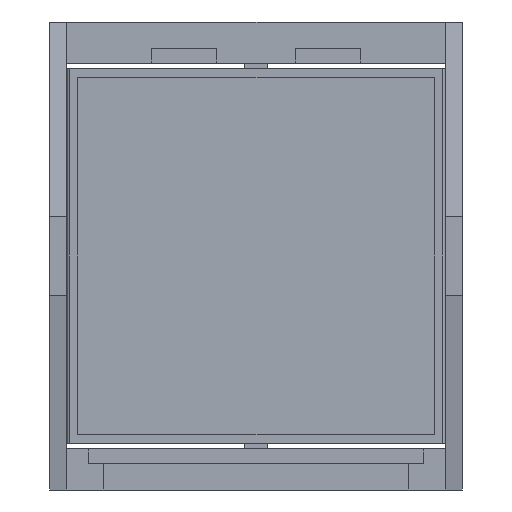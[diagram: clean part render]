
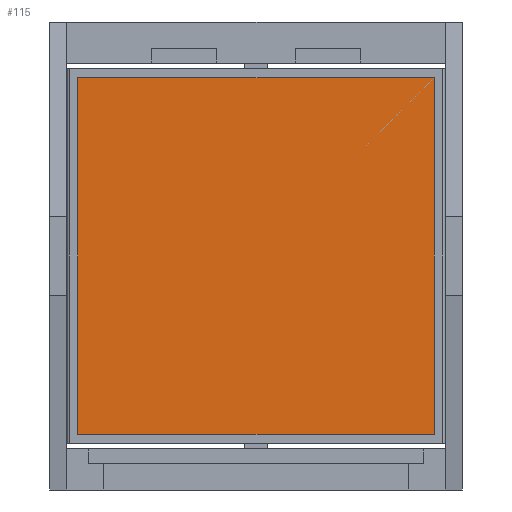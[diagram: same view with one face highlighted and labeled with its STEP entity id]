
A CAD part, front view. The second image highlights one B-rep face of the part: STEP entity #115.
In plain terms, the highlighted planar face has unit normal (0, -1, 0).
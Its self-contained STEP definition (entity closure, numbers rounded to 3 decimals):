
#24 = CARTESIAN_POINT ( 'NONE',  ( -14.587, -6.233, -10.305 ) ) ;
#115 = ADVANCED_FACE ( 'NONE', ( #3267 ), #7960, .T. ) ;
#397 = ORIENTED_EDGE ( 'NONE', *, *, #2728, .T. ) ;
#570 = DIRECTION ( 'NONE',  ( 1., 0., 0. ) ) ;
#1076 = AXIS2_PLACEMENT_3D ( 'NONE', #5154, #5234, #5781 ) ;
#1831 = LINE ( 'NONE', #5801, #8223 ) ;
#2063 = CARTESIAN_POINT ( 'NONE',  ( 14.413, -6.233, -10.305 ) ) ;
#2461 = EDGE_CURVE ( 'NONE', #2910, #7573, #8779, .T. ) ;
#2655 = DIRECTION ( 'NONE',  ( 0., 0., 1. ) ) ;
#2680 = LINE ( 'NONE', #5384, #5616 ) ;
#2687 = CARTESIAN_POINT ( 'NONE',  ( 14.413, -6.233, 18.695 ) ) ;
#2728 = EDGE_CURVE ( 'NONE', #7573, #4008, #1831, .T. ) ;
#2733 = VERTEX_POINT ( 'NONE', #7209 ) ;
#2910 = VERTEX_POINT ( 'NONE', #8379 ) ;
#2997 = CARTESIAN_POINT ( 'NONE',  ( -14.587, -6.233, 18.695 ) ) ;
#3267 = FACE_OUTER_BOUND ( 'NONE', #5490, .T. ) ;
#3784 = VECTOR ( 'NONE', #5339, 1000. ) ;
#4008 = VERTEX_POINT ( 'NONE', #2997 ) ;
#4184 = ORIENTED_EDGE ( 'NONE', *, *, #2461, .T. ) ;
#5154 = CARTESIAN_POINT ( 'NONE',  ( 14.413, -6.233, 18.695 ) ) ;
#5234 = DIRECTION ( 'NONE',  ( 0., -1., 0. ) ) ;
#5339 = DIRECTION ( 'NONE',  ( 0., 0., -1. ) ) ;
#5384 = CARTESIAN_POINT ( 'NONE',  ( 14.413, -6.233, -10.305 ) ) ;
#5465 = LINE ( 'NONE', #24, #3784 ) ;
#5481 = VECTOR ( 'NONE', #2655, 1000. ) ;
#5490 = EDGE_LOOP ( 'NONE', ( #4184, #397, #8198, #7281 ) ) ;
#5616 = VECTOR ( 'NONE', #570, 1000. ) ;
#5781 = DIRECTION ( 'NONE',  ( 0., 0., 1. ) ) ;
#5801 = CARTESIAN_POINT ( 'NONE',  ( 14.413, -6.233, 18.695 ) ) ;
#7209 = CARTESIAN_POINT ( 'NONE',  ( -14.587, -6.233, -10.305 ) ) ;
#7281 = ORIENTED_EDGE ( 'NONE', *, *, #7876, .T. ) ;
#7573 = VERTEX_POINT ( 'NONE', #2687 ) ;
#7808 = EDGE_CURVE ( 'NONE', #4008, #2733, #5465, .T. ) ;
#7876 = EDGE_CURVE ( 'NONE', #2733, #2910, #2680, .T. ) ;
#7960 = PLANE ( 'NONE',  #1076 ) ;
#8198 = ORIENTED_EDGE ( 'NONE', *, *, #7808, .T. ) ;
#8223 = VECTOR ( 'NONE', #8543, 1000. ) ;
#8379 = CARTESIAN_POINT ( 'NONE',  ( 14.413, -6.233, -10.305 ) ) ;
#8543 = DIRECTION ( 'NONE',  ( -1., 0., 0. ) ) ;
#8779 = LINE ( 'NONE', #2063, #5481 ) ;
